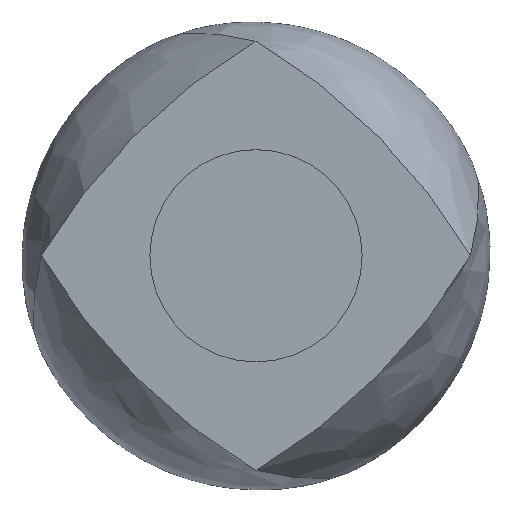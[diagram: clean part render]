
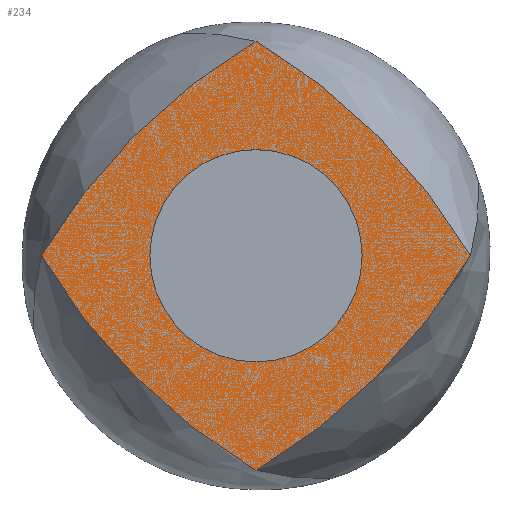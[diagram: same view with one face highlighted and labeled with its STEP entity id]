
A CAD part, top view. The second image highlights one B-rep face of the part: STEP entity #234.
In plain terms, the highlighted planar face has unit normal (0, 0, 1).
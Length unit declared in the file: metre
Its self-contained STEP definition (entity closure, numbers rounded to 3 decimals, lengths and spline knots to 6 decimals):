
#234 = ADVANCED_FACE( '', ( #386, #387 ), #388, .T. );
#386 = FACE_BOUND( '', #988, .T. );
#387 = FACE_OUTER_BOUND( '', #989, .T. );
#388 = PLANE( '', #990 );
#988 = EDGE_LOOP( '', ( #2065 ) );
#989 = EDGE_LOOP( '', ( #2066, #2067, #2068, #2069 ) );
#990 = AXIS2_PLACEMENT_3D( '', #2070, #2071, #2072 );
#2065 = ORIENTED_EDGE( '', *, *, #2460, .F. );
#2066 = ORIENTED_EDGE( '', *, *, #2402, .T. );
#2067 = ORIENTED_EDGE( '', *, *, #2431, .T. );
#2068 = ORIENTED_EDGE( '', *, *, #2461, .T. );
#2069 = ORIENTED_EDGE( '', *, *, #2452, .T. );
#2070 = CARTESIAN_POINT( '', ( -0.101575, -0.101575, 0.1 ) );
#2071 = DIRECTION( '', ( 0., 0., 1. ) );
#2072 = DIRECTION( '', ( 1., 0., 0. ) );
#2402 = EDGE_CURVE( '', #2644, #2642, #2645, .T. );
#2431 = EDGE_CURVE( '', #2642, #2695, #2697, .T. );
#2452 = EDGE_CURVE( '', #2725, #2644, #2731, .T. );
#2460 = EDGE_CURVE( '', #2744, #2744, #2745, .T. );
#2461 = EDGE_CURVE( '', #2695, #2725, #2746, .T. );
#2642 = VERTEX_POINT( '', #3025 );
#2644 = VERTEX_POINT( '', #3031 );
#2645 = CIRCLE( '', #3032, 0.2 );
#2695 = VERTEX_POINT( '', #3149 );
#2697 = CIRCLE( '', #3155, 0.2 );
#2725 = VERTEX_POINT( '', #3382 );
#2731 = CIRCLE( '', #3401, 0.2 );
#2744 = VERTEX_POINT( '', #3514 );
#2745 = CIRCLE( '', #3515, 0.035 );
#2746 = CIRCLE( '', #3516, 0.2 );
#3025 = CARTESIAN_POINT( '', ( 0., 0.070711, 0.1 ) );
#3031 = CARTESIAN_POINT( '', ( 0.070711, 0., 0.1 ) );
#3032 = AXIS2_PLACEMENT_3D( '', #3708, #3709, #3710 );
#3149 = CARTESIAN_POINT( '', ( -0.070711, 0., 0.1 ) );
#3155 = AXIS2_PLACEMENT_3D( '', #3723, #3724, #3725 );
#3382 = CARTESIAN_POINT( '', ( 0., -0.070711, 0.1 ) );
#3401 = AXIS2_PLACEMENT_3D( '', #3736, #3737, #3738 );
#3514 = CARTESIAN_POINT( '', ( 0.035, 0., 0.1 ) );
#3515 = AXIS2_PLACEMENT_3D( '', #3742, #3743, #3744 );
#3516 = AXIS2_PLACEMENT_3D( '', #3745, #3746, #3747 );
#3708 = CARTESIAN_POINT( '', ( -0.101575, -0.101575, 0.1 ) );
#3709 = DIRECTION( '', ( 0., 0., 1. ) );
#3710 = DIRECTION( '', ( 1., 0., 0. ) );
#3723 = CARTESIAN_POINT( '', ( 0.101575, -0.101575, 0.1 ) );
#3724 = DIRECTION( '', ( 0., 0., 1. ) );
#3725 = DIRECTION( '', ( 1., 0., 0. ) );
#3736 = CARTESIAN_POINT( '', ( -0.101575, 0.101575, 0.1 ) );
#3737 = DIRECTION( '', ( 0., 0., 1. ) );
#3738 = DIRECTION( '', ( 1., 0., 0. ) );
#3742 = CARTESIAN_POINT( '', ( 0., 0., 0.1 ) );
#3743 = DIRECTION( '', ( 0., 0., 1. ) );
#3744 = DIRECTION( '', ( 1., 0., 0. ) );
#3745 = CARTESIAN_POINT( '', ( 0.101575, 0.101575, 0.1 ) );
#3746 = DIRECTION( '', ( 0., 0., 1. ) );
#3747 = DIRECTION( '', ( 1., 0., 0. ) );
